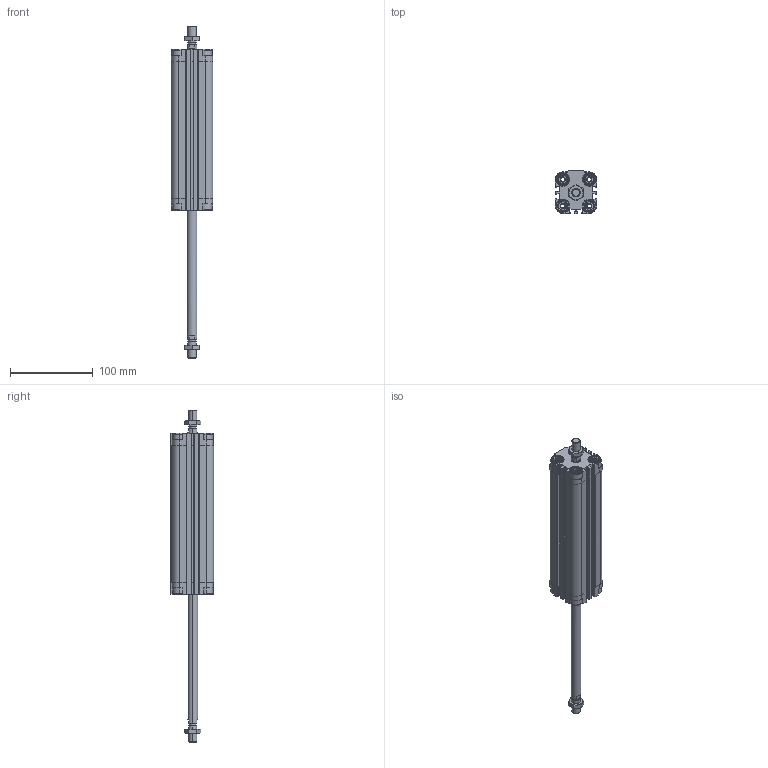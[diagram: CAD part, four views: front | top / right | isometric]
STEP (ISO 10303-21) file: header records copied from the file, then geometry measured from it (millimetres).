
FILE_DESCRIPTION (( 'STEP AP203' ), '1' );
FILE_NAME ('CDVU32-150M-P.STEP', '2020-07-21T15:15:50', ( '' ), ( '' ), 'SwSTEP 2.0', 'SolidWorks 2019', '' );
FILE_SCHEMA (( 'CONFIG_CONTROL_DESIGN' ));
Length unit declared in the file: millimetre
Products named in the file (1): CDVU32-150M-P
Bounding box: 50 x 52 x 400.5 mm (x, y, z)
Volume: 318347.4 mm3; surface area: 115121.1 mm2
Topology: 4 solids, 4 shells, 758 faces, 2004 edges, 1290 vertices
Faces by surface type: plane 438, cylinder 240, cone 80
Entity records: 24115 total; most frequent: CARTESIAN_POINT 5193, ORIENTED_EDGE 4000, DIRECTION 3862, EDGE_CURVE 2000, AXIS2_PLACEMENT_3D 1319, VERTEX_POINT 1290, VECTOR 1224, LINE 1224
